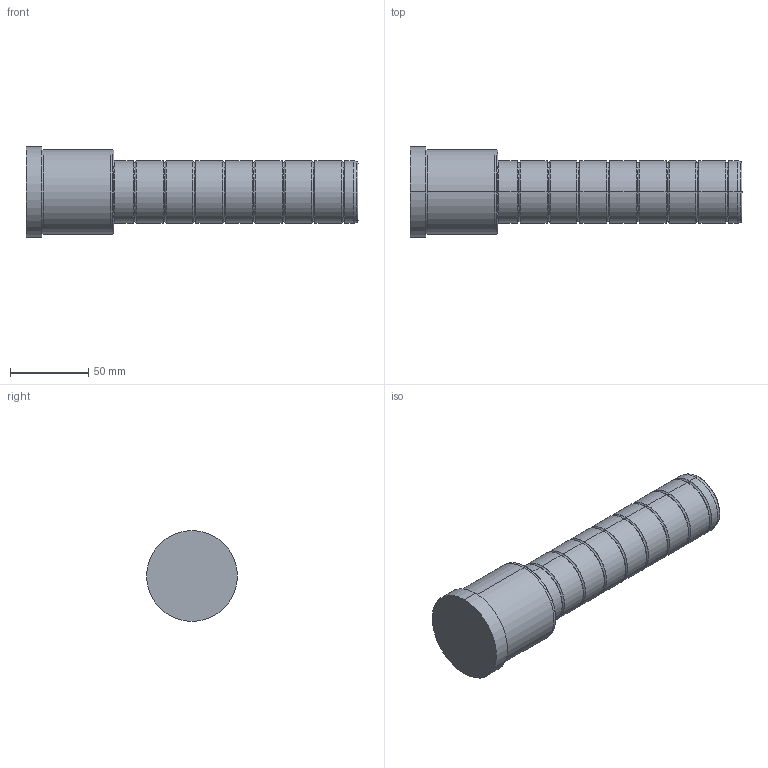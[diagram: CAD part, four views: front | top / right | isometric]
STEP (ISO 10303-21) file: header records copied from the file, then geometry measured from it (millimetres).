
FILE_DESCRIPTION( ( 'STEP AP203' ), '1' );
FILE_NAME( 'C:/Projects/D02 - 40x56x156.step', '2003-01-04T14:16:39', ( ' ' ), ( ' ' ), 'XStep 1.0', ' ', ' ' );
FILE_SCHEMA( ( 'CONFIG_CONTROL_DESIGN' ) );
Length unit declared in the file: metre
Products named in the file (1): 1
Bounding box: 212 x 58 x 58 mm (x, y, z)
Volume: 326156.4 mm3; surface area: 35368.9 mm2
Topology: 1 solids, 1 shells, 72 faces, 142 edges, 76 vertices
Faces by surface type: bspline 42, revolution 30
Entity records: 2315 total; most frequent: CARTESIAN_POINT 1017, ORIENTED_EDGE 284, DIRECTION 214, EDGE_CURVE 142, AXIS2_PLACEMENT_3D 77, EDGE_LOOP 76, VERTEX_POINT 76, CIRCLE 76
